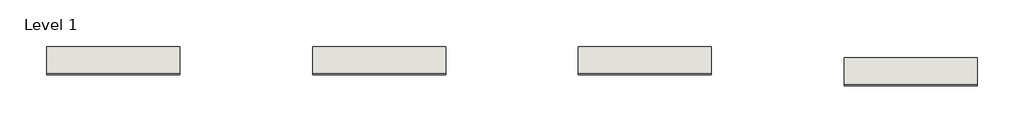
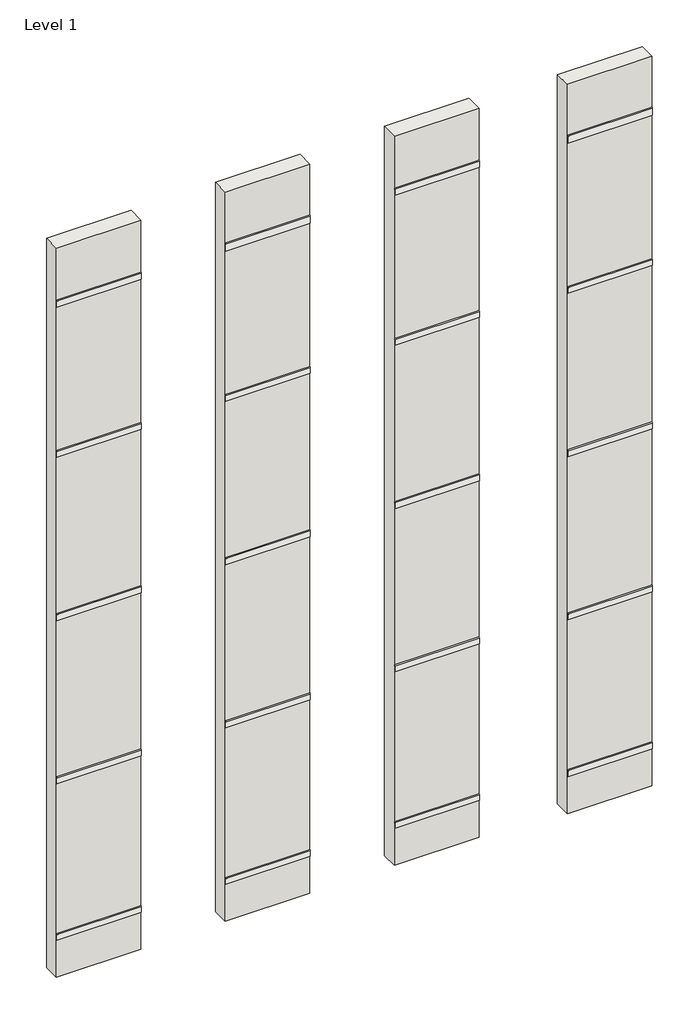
# One storey: 20 coverings, 4 walls.
"""IFC4 building model written with IfcOpenShell, lengths in millimetres."""

from ifc_helpers import new_model, si_unit, point, frame, frame_2d, origin, place, context, project, spatial, polyline, circle_curve, trimmed, segment, composite_curve, outline, extrude, element, save

model = new_model("IFC4")

# Units and contexts
model_context = context("Model", 3, world=origin())
ifc_project = project(units=[si_unit("LENGTHUNIT", "METRE", prefix="MILLI")], contexts=[model_context])

# Site, building, storey
site = spatial("IfcSite", under=ifc_project)
building = spatial("IfcBuilding", under=site)
storey = spatial("IfcBuildingStorey", under=building, Name="Level 1", Elevation=0.0)

# Coverings
placement = place(None, origin())
element("IfcCovering", 1, ObjectType="REVIGRÉS-RULE-RB-8X45-SOFT GRIP-ALLOY", at=placement, inside=storey, context=model_context, shape_type="SweptSolid", body=[
    extrude(outline(composite_curve([segment(polyline([(-7682.9144657, -11738.2513221), (-7693.4144657, -11738.2513221), (-7693.4144657, -11668.7513221)]), True, "CONTINUOUS"), segment(trimmed(circle_curve(frame_2d((-7682.9144657, -11668.7513221)), 10.5), [point((-7693.4144657, -11668.7513221))], [point((-7682.9144657, -11658.2513221))], False, "CARTESIAN"), True, "CONTINUOUS"), segment(polyline([(-7682.9144657, -11658.2513221), (-7682.9144657, -11738.2513221)]), True, "CONTINUOUS")], self_intersect=False)), frame((7591.5023157, 0.0, 0.0), z_axis=(1.0, 0.0, 0.0), x_axis=(0.0, 1.0, 0.0)), (0.0, 0.0, 1.0), 1000.0),
])
element("IfcCovering", 2, ObjectType="REVIGRÉS-RULE-RB-8X60-SOFT GRIP-ALLOY", at=placement, inside=storey, context=model_context, shape_type="SweptSolid", body=[
    extrude(outline(composite_curve([segment(polyline([(-7682.9144657, -9778.2513221), (-7693.4144657, -9778.2513221), (-7693.4144657, -9708.7513221)]), True, "CONTINUOUS"), segment(trimmed(circle_curve(frame_2d((-7682.9144657, -9708.7513221)), 10.5), [point((-7693.4144657, -9708.7513221))], [point((-7682.9144657, -9698.2513221))], False, "CARTESIAN"), True, "CONTINUOUS"), segment(polyline([(-7682.9144657, -9698.2513221), (-7682.9144657, -9778.2513221)]), True, "CONTINUOUS")], self_intersect=False)), frame((7591.5023157, 0.0, 0.0), z_axis=(1.0, 0.0, 0.0), x_axis=(0.0, 1.0, 0.0)), (0.0, 0.0, 1.0), 1000.0),
])
element("IfcCovering", 3, ObjectType="REVIGRÉS-RULE-RB-8X90-SOFT GRIP-ALLOY", at=placement, inside=storey, context=model_context, shape_type="SweptSolid", body=[
    extrude(outline(composite_curve([segment(polyline([(-7682.9144657, -7738.2513221), (-7693.4144657, -7738.2513221), (-7693.4144657, -7668.7513221)]), True, "CONTINUOUS"), segment(trimmed(circle_curve(frame_2d((-7682.9144657, -7668.7513221)), 10.5), [point((-7693.4144657, -7668.7513221))], [point((-7682.9144657, -7658.2513221))], False, "CARTESIAN"), True, "CONTINUOUS"), segment(polyline([(-7682.9144657, -7658.2513221), (-7682.9144657, -7738.2513221)]), True, "CONTINUOUS")], self_intersect=False)), frame((7591.5023157, 0.0, 0.0), z_axis=(1.0, 0.0, 0.0), x_axis=(0.0, 1.0, 0.0)), (0.0, 0.0, 1.0), 1000.0),
])
element("IfcCovering", 4, ObjectType="REVIGRÉS-RULE-RB-8X120-SOFT GRIP-ALLOY", at=placement, inside=storey, context=model_context, shape_type="SweptSolid", body=[
    extrude(outline(composite_curve([segment(polyline([(-7682.9144657, -5698.2513221), (-7693.4144657, -5698.2513221), (-7693.4144657, -5628.7513221)]), True, "CONTINUOUS"), segment(trimmed(circle_curve(frame_2d((-7682.9144657, -5628.7513221)), 10.5), [point((-7693.4144657, -5628.7513221))], [point((-7682.9144657, -5618.2513221))], False, "CARTESIAN"), True, "CONTINUOUS"), segment(polyline([(-7682.9144657, -5618.2513221), (-7682.9144657, -5698.2513221)]), True, "CONTINUOUS")], self_intersect=False)), frame((7591.5023157, 0.0, 0.0), z_axis=(1.0, 0.0, 0.0), x_axis=(0.0, 1.0, 0.0)), (0.0, 0.0, 1.0), 1000.0),
])
element("IfcCovering", 5, ObjectType="REVIGRÉS-RULE-RB-9.5X30-SOFT GRIP-ALLOY", at=placement, inside=storey, context=model_context, shape_type="SweptSolid", body=[
    extrude(outline(composite_curve([segment(polyline([(-7682.9144657, -3818.2513221), (-7693.4144657, -3818.2513221), (-7693.4144657, -3733.7513221)]), True, "CONTINUOUS"), segment(trimmed(circle_curve(frame_2d((-7682.9144657, -3733.7513221)), 10.5), [point((-7693.4144657, -3733.7513221))], [point((-7682.9144657, -3723.2513221))], False, "CARTESIAN"), True, "CONTINUOUS"), segment(polyline([(-7682.9144657, -3723.2513221), (-7682.9144657, -3818.2513221)]), True, "CONTINUOUS")], self_intersect=False)), frame((7591.5023157, 0.0, 0.0), z_axis=(1.0, 0.0, 0.0), x_axis=(0.0, 1.0, 0.0)), (0.0, 0.0, 1.0), 1000.0),
])
element("IfcCovering", 6, ObjectType="REVIGRÉS-RULE-RB-8X60-SOFT GRIP-SMOG", at=placement, inside=storey, context=model_context, shape_type="SweptSolid", body=[
    extrude(outline(composite_curve([segment(polyline([(-7767.3116421, -9778.2513221), (-7777.8116421, -9778.2513221), (-7777.8116421, -9708.7513221)]), True, "CONTINUOUS"), segment(trimmed(circle_curve(frame_2d((-7767.3116421, -9708.7513221)), 10.5), [point((-7777.8116421, -9708.7513221))], [point((-7767.3116421, -9698.2513221))], False, "CARTESIAN"), True, "CONTINUOUS"), segment(polyline([(-7767.3116421, -9698.2513221), (-7767.3116421, -9778.2513221)]), True, "CONTINUOUS")], self_intersect=False)), frame((11591.5023157, 0.0, 0.0), z_axis=(1.0, 0.0, 0.0), x_axis=(0.0, 1.0, 0.0)), (0.0, 0.0, 1.0), 1000.0),
])
element("IfcCovering", 7, ObjectType="REVIGRÉS-RULE-RB-8X90-SOFT GRIP-SMOG", at=placement, inside=storey, context=model_context, shape_type="SweptSolid", body=[
    extrude(outline(composite_curve([segment(polyline([(-7767.3116421, -7738.2513221), (-7777.8116421, -7738.2513221), (-7777.8116421, -7668.7513221)]), True, "CONTINUOUS"), segment(trimmed(circle_curve(frame_2d((-7767.3116421, -7668.7513221)), 10.5), [point((-7777.8116421, -7668.7513221))], [point((-7767.3116421, -7658.2513221))], False, "CARTESIAN"), True, "CONTINUOUS"), segment(polyline([(-7767.3116421, -7658.2513221), (-7767.3116421, -7738.2513221)]), True, "CONTINUOUS")], self_intersect=False)), frame((11591.5023157, 0.0, 0.0), z_axis=(1.0, 0.0, 0.0), x_axis=(0.0, 1.0, 0.0)), (0.0, 0.0, 1.0), 1000.0),
])
element("IfcCovering", 8, ObjectType="REVIGRÉS-RULE-RB-8X120-SOFT GRIP-SMOG", at=placement, inside=storey, context=model_context, shape_type="SweptSolid", body=[
    extrude(outline(composite_curve([segment(polyline([(-7767.3116421, -5698.2513221), (-7777.8116421, -5698.2513221), (-7777.8116421, -5628.7513221)]), True, "CONTINUOUS"), segment(trimmed(circle_curve(frame_2d((-7767.3116421, -5628.7513221)), 10.5), [point((-7777.8116421, -5628.7513221))], [point((-7767.3116421, -5618.2513221))], False, "CARTESIAN"), True, "CONTINUOUS"), segment(polyline([(-7767.3116421, -5618.2513221), (-7767.3116421, -5698.2513221)]), True, "CONTINUOUS")], self_intersect=False)), frame((11591.5023157, 0.0, 0.0), z_axis=(1.0, 0.0, 0.0), x_axis=(0.0, 1.0, 0.0)), (0.0, 0.0, 1.0), 1000.0),
])
element("IfcCovering", 9, ObjectType="REVIGRÉS-RULE-RB-9.5X30-SOFT GRIP-SMOG", at=placement, inside=storey, context=model_context, shape_type="SweptSolid", body=[
    extrude(outline(composite_curve([segment(polyline([(-7767.3116421, -3818.2513221), (-7777.8116421, -3818.2513221), (-7777.8116421, -3733.7513221)]), True, "CONTINUOUS"), segment(trimmed(circle_curve(frame_2d((-7767.3116421, -3733.7513221)), 10.5), [point((-7777.8116421, -3733.7513221))], [point((-7767.3116421, -3723.2513221))], False, "CARTESIAN"), True, "CONTINUOUS"), segment(polyline([(-7767.3116421, -3723.2513221), (-7767.3116421, -3818.2513221)]), True, "CONTINUOUS")], self_intersect=False)), frame((11591.5023157, 0.0, 0.0), z_axis=(1.0, 0.0, 0.0), x_axis=(0.0, 1.0, 0.0)), (0.0, 0.0, 1.0), 1000.0),
])
element("IfcCovering", 10, ObjectType="REVIGRÉS-RULE-RB-8X45-SILK-ALLOY", at=placement, inside=storey, context=model_context, shape_type="SweptSolid", body=[
    extrude(outline(composite_curve([segment(polyline([(-7682.9144657, -11738.2513221), (-7693.4144657, -11738.2513221), (-7693.4144657, -11668.7513221)]), True, "CONTINUOUS"), segment(trimmed(circle_curve(frame_2d((-7682.9144657, -11668.7513221)), 10.5), [point((-7693.4144657, -11668.7513221))], [point((-7682.9144657, -11658.2513221))], False, "CARTESIAN"), True, "CONTINUOUS"), segment(polyline([(-7682.9144657, -11658.2513221), (-7682.9144657, -11738.2513221)]), True, "CONTINUOUS")], self_intersect=False)), frame((5591.5023157, 0.0, 0.0), z_axis=(1.0, 0.0, 0.0), x_axis=(0.0, 1.0, 0.0)), (0.0, 0.0, 1.0), 1000.0),
])
element("IfcCovering", 11, ObjectType="REVIGRÉS-RULE-RB-8X60-SILK-ALLOY", at=placement, inside=storey, context=model_context, shape_type="SweptSolid", body=[
    extrude(outline(composite_curve([segment(polyline([(-7682.9144657, -9778.2513221), (-7693.4144657, -9778.2513221), (-7693.4144657, -9708.7513221)]), True, "CONTINUOUS"), segment(trimmed(circle_curve(frame_2d((-7682.9144657, -9708.7513221)), 10.5), [point((-7693.4144657, -9708.7513221))], [point((-7682.9144657, -9698.2513221))], False, "CARTESIAN"), True, "CONTINUOUS"), segment(polyline([(-7682.9144657, -9698.2513221), (-7682.9144657, -9778.2513221)]), True, "CONTINUOUS")], self_intersect=False)), frame((5591.5023157, 0.0, 0.0), z_axis=(1.0, 0.0, 0.0), x_axis=(0.0, 1.0, 0.0)), (0.0, 0.0, 1.0), 1000.0),
])
element("IfcCovering", 12, ObjectType="REVIGRÉS-RULE-RB-8X90-SILK-ALLOY", at=placement, inside=storey, context=model_context, shape_type="SweptSolid", body=[
    extrude(outline(composite_curve([segment(polyline([(-7682.9144657, -7738.2513221), (-7693.4144657, -7738.2513221), (-7693.4144657, -7668.7513221)]), True, "CONTINUOUS"), segment(trimmed(circle_curve(frame_2d((-7682.9144657, -7668.7513221)), 10.5), [point((-7693.4144657, -7668.7513221))], [point((-7682.9144657, -7658.2513221))], False, "CARTESIAN"), True, "CONTINUOUS"), segment(polyline([(-7682.9144657, -7658.2513221), (-7682.9144657, -7738.2513221)]), True, "CONTINUOUS")], self_intersect=False)), frame((5591.5023157, 0.0, 0.0), z_axis=(1.0, 0.0, 0.0), x_axis=(0.0, 1.0, 0.0)), (0.0, 0.0, 1.0), 1000.0),
])
element("IfcCovering", 13, ObjectType="REVIGRÉS-RULE-RB-8X120-SILK-ALLOY", at=placement, inside=storey, context=model_context, shape_type="SweptSolid", body=[
    extrude(outline(composite_curve([segment(polyline([(-7682.9144657, -5698.2513221), (-7693.4144657, -5698.2513221), (-7693.4144657, -5628.7513221)]), True, "CONTINUOUS"), segment(trimmed(circle_curve(frame_2d((-7682.9144657, -5628.7513221)), 10.5), [point((-7693.4144657, -5628.7513221))], [point((-7682.9144657, -5618.2513221))], False, "CARTESIAN"), True, "CONTINUOUS"), segment(polyline([(-7682.9144657, -5618.2513221), (-7682.9144657, -5698.2513221)]), True, "CONTINUOUS")], self_intersect=False)), frame((5591.5023157, 0.0, 0.0), z_axis=(1.0, 0.0, 0.0), x_axis=(0.0, 1.0, 0.0)), (0.0, 0.0, 1.0), 1000.0),
])
element("IfcCovering", 14, ObjectType="REVIGRÉS-RULE-RB-9.5X30-SILK-ALLOY", at=placement, inside=storey, context=model_context, shape_type="SweptSolid", body=[
    extrude(outline(composite_curve([segment(polyline([(-7682.9144657, -3818.2513221), (-7693.4144657, -3818.2513221), (-7693.4144657, -3748.7513221)]), True, "CONTINUOUS"), segment(trimmed(circle_curve(frame_2d((-7682.9144657, -3748.7513221)), 10.5), [point((-7693.4144657, -3748.7513221))], [point((-7682.9144657, -3738.2513221))], False, "CARTESIAN"), True, "CONTINUOUS"), segment(polyline([(-7682.9144657, -3738.2513221), (-7682.9144657, -3818.2513221)]), True, "CONTINUOUS")], self_intersect=False)), frame((5591.5023157, 0.0, 0.0), z_axis=(1.0, 0.0, 0.0), x_axis=(0.0, 1.0, 0.0)), (0.0, 0.0, 1.0), 1000.0),
])
element("IfcCovering", 15, ObjectType="REVIGRÉS-RULE-RB-8X45-SOFT GRIP-SMOG", at=placement, inside=storey, context=model_context, shape_type="SweptSolid", body=[
    extrude(outline(composite_curve([segment(polyline([(-7767.3116421, -11738.2513221), (-7777.8116421, -11738.2513221), (-7777.8116421, -11668.7513221)]), True, "CONTINUOUS"), segment(trimmed(circle_curve(frame_2d((-7767.3116421, -11668.7513221)), 10.5), [point((-7777.8116421, -11668.7513221))], [point((-7767.3116421, -11658.2513221))], False, "CARTESIAN"), True, "CONTINUOUS"), segment(polyline([(-7767.3116421, -11658.2513221), (-7767.3116421, -11738.2513221)]), True, "CONTINUOUS")], self_intersect=False)), frame((11591.5023157, 0.0, 0.0), z_axis=(1.0, 0.0, 0.0), x_axis=(0.0, 1.0, 0.0)), (0.0, 0.0, 1.0), 1000.0),
])
element("IfcCovering", 16, ObjectType="REVIGRÉS-RULE-RB-8X45-SILK-SMOG", at=placement, inside=storey, context=model_context, shape_type="SweptSolid", body=[
    extrude(outline(composite_curve([segment(polyline([(-7682.9144657, -11738.2513221), (-7693.4144657, -11738.2513221), (-7693.4144657, -11668.7513221)]), True, "CONTINUOUS"), segment(trimmed(circle_curve(frame_2d((-7682.9144657, -11668.7513221)), 10.5), [point((-7693.4144657, -11668.7513221))], [point((-7682.9144657, -11658.2513221))], False, "CARTESIAN"), True, "CONTINUOUS"), segment(polyline([(-7682.9144657, -11658.2513221), (-7682.9144657, -11738.2513221)]), True, "CONTINUOUS")], self_intersect=False)), frame((9591.5023157, 0.0, 0.0), z_axis=(1.0, 0.0, 0.0), x_axis=(0.0, 1.0, 0.0)), (0.0, 0.0, 1.0), 1000.0),
])
element("IfcCovering", 17, ObjectType="REVIGRÉS-RULE-RB-8X60-SILK-SMOG", at=placement, inside=storey, context=model_context, shape_type="SweptSolid", body=[
    extrude(outline(composite_curve([segment(polyline([(-7682.9144657, -9778.2513221), (-7693.4144657, -9778.2513221), (-7693.4144657, -9708.7513221)]), True, "CONTINUOUS"), segment(trimmed(circle_curve(frame_2d((-7682.9144657, -9708.7513221)), 10.5), [point((-7693.4144657, -9708.7513221))], [point((-7682.9144657, -9698.2513221))], False, "CARTESIAN"), True, "CONTINUOUS"), segment(polyline([(-7682.9144657, -9698.2513221), (-7682.9144657, -9778.2513221)]), True, "CONTINUOUS")], self_intersect=False)), frame((9591.5023157, 0.0, 0.0), z_axis=(1.0, 0.0, 0.0), x_axis=(0.0, 1.0, 0.0)), (0.0, 0.0, 1.0), 1000.0),
])
element("IfcCovering", 18, ObjectType="REVIGRÉS-RULE-RB-8X90-SILK-SMOG", at=placement, inside=storey, context=model_context, shape_type="SweptSolid", body=[
    extrude(outline(composite_curve([segment(polyline([(-7682.9144657, -7738.2513221), (-7693.4144657, -7738.2513221), (-7693.4144657, -7668.7513221)]), True, "CONTINUOUS"), segment(trimmed(circle_curve(frame_2d((-7682.9144657, -7668.7513221)), 10.5), [point((-7693.4144657, -7668.7513221))], [point((-7682.9144657, -7658.2513221))], False, "CARTESIAN"), True, "CONTINUOUS"), segment(polyline([(-7682.9144657, -7658.2513221), (-7682.9144657, -7738.2513221)]), True, "CONTINUOUS")], self_intersect=False)), frame((9591.5023157, 0.0, 0.0), z_axis=(1.0, 0.0, 0.0), x_axis=(0.0, 1.0, 0.0)), (0.0, 0.0, 1.0), 1000.0),
])
element("IfcCovering", 19, ObjectType="REVIGRÉS-RULE-RB-8X120-SILK-SMOG", at=placement, inside=storey, context=model_context, shape_type="SweptSolid", body=[
    extrude(outline(composite_curve([segment(polyline([(-7682.9144657, -5698.2513221), (-7693.4144657, -5698.2513221), (-7693.4144657, -5628.7513221)]), True, "CONTINUOUS"), segment(trimmed(circle_curve(frame_2d((-7682.9144657, -5628.7513221)), 10.5), [point((-7693.4144657, -5628.7513221))], [point((-7682.9144657, -5618.2513221))], False, "CARTESIAN"), True, "CONTINUOUS"), segment(polyline([(-7682.9144657, -5618.2513221), (-7682.9144657, -5698.2513221)]), True, "CONTINUOUS")], self_intersect=False)), frame((9591.5023157, 0.0, 0.0), z_axis=(1.0, 0.0, 0.0), x_axis=(0.0, 1.0, 0.0)), (0.0, 0.0, 1.0), 1000.0),
])
element("IfcCovering", 20, ObjectType="REVIGRÉS-RULE-RB-9.5X30-SILK-SMOG", at=placement, inside=storey, context=model_context, shape_type="SweptSolid", body=[
    extrude(outline(composite_curve([segment(polyline([(-7682.9144657, -3818.2513221), (-7693.4144657, -3818.2513221), (-7693.4144657, -3748.7513221)]), True, "CONTINUOUS"), segment(trimmed(circle_curve(frame_2d((-7682.9144657, -3748.7513221)), 10.5), [point((-7693.4144657, -3748.7513221))], [point((-7682.9144657, -3738.2513221))], False, "CARTESIAN"), True, "CONTINUOUS"), segment(polyline([(-7682.9144657, -3738.2513221), (-7682.9144657, -3818.2513221)]), True, "CONTINUOUS")], self_intersect=False)), frame((9591.5023157, 0.0, 0.0), z_axis=(1.0, 0.0, 0.0), x_axis=(0.0, 1.0, 0.0)), (0.0, 0.0, 1.0), 1000.0),
])

# Walls
element("IfcWall", 21, ObjectType="Wall 1", at=placement, inside=storey, context=model_context, shape_type="SweptSolid", body=[
    extrude(outline(polyline([(8591.5023157, -7682.9144657), (7591.5023157, -7682.9144657), (7591.5023157, -7482.9144657), (8591.5023157, -7482.9144657), (8591.5023157, -7682.9144657)])), frame((0.0, 0.0, -12207.1540157), z_axis=(0.0, 0.0, 1.0), x_axis=(1.0, 0.0, 0.0)), (0.0, 0.0, 1.0), 9118.9026935),
])
element("IfcWall", 22, ObjectType="Wall 1", at=placement, inside=storey, context=model_context, shape_type="SweptSolid", body=[
    extrude(outline(polyline([(12591.5023157, -7767.3116421), (11591.5023157, -7767.3116421), (11591.5023157, -7567.3116421), (12591.5023157, -7567.3116421), (12591.5023157, -7767.3116421)])), frame((0.0, 0.0, -12207.1540157), z_axis=(0.0, 0.0, 1.0), x_axis=(1.0, 0.0, 0.0)), (0.0, 0.0, 1.0), 9118.9026935),
])
element("IfcWall", 23, ObjectType="Wall 1", at=placement, inside=storey, context=model_context, shape_type="SweptSolid", body=[
    extrude(outline(polyline([(6591.5023157, -7682.9144657), (5591.5023157, -7682.9144657), (5591.5023157, -7482.9144657), (6591.5023157, -7482.9144657), (6591.5023157, -7682.9144657)])), frame((0.0, 0.0, -12207.1540157), z_axis=(0.0, 0.0, 1.0), x_axis=(1.0, 0.0, 0.0)), (0.0, 0.0, 1.0), 9118.9026935),
])
element("IfcWall", 24, ObjectType="Wall 1", at=placement, inside=storey, context=model_context, shape_type="SweptSolid", body=[
    extrude(outline(polyline([(10591.5023157, -7682.9144657), (9591.5023157, -7682.9144657), (9591.5023157, -7482.9144657), (10591.5023157, -7482.9144657), (10591.5023157, -7682.9144657)])), frame((0.0, 0.0, -12207.1540157), z_axis=(0.0, 0.0, 1.0), x_axis=(1.0, 0.0, 0.0)), (0.0, 0.0, 1.0), 9118.9026935),
])

save(model, "model.ifc")
